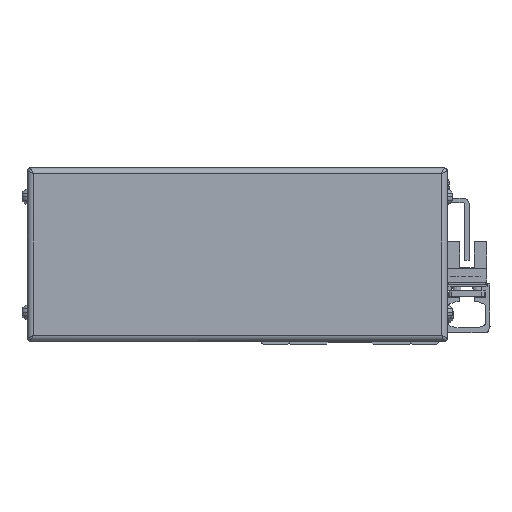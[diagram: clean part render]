
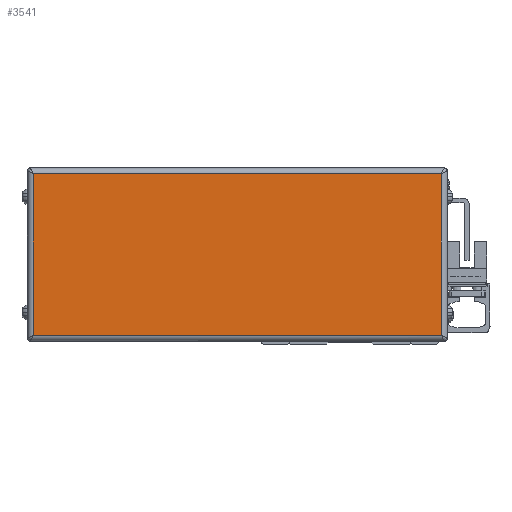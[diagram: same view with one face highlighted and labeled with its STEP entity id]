
A CAD part, left-side view. The second image highlights one B-rep face of the part: STEP entity #3541.
In plain terms, the highlighted planar face has unit normal (-1, 0, 0).
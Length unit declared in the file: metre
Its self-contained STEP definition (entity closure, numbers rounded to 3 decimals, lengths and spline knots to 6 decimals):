
#3541=ADVANCED_FACE('',(#8076),#8077,.T.);
#8076=FACE_OUTER_BOUND('',#14665,.T.);
#8077=PLANE('',#14666);
#14665=EDGE_LOOP('',(#25590,#25591,#25592,#25593));
#14666=AXIS2_PLACEMENT_3D('',#25594,#25595,#25596);
#25590=ORIENTED_EDGE('',*,*,#42152,.T.);
#25591=ORIENTED_EDGE('',*,*,#42153,.T.);
#25592=ORIENTED_EDGE('',*,*,#42154,.T.);
#25593=ORIENTED_EDGE('',*,*,#42155,.T.);
#25594=CARTESIAN_POINT('',(-0.054,0.039,-0.001));
#25595=DIRECTION('',(-1.0,0.0,0.0));
#25596=DIRECTION('',(0.0,0.,1.0));
#42152=EDGE_CURVE('',#49342,#49343,#49344,.T.);
#42153=EDGE_CURVE('',#49343,#48252,#49345,.T.);
#42154=EDGE_CURVE('',#48252,#49346,#49347,.T.);
#42155=EDGE_CURVE('',#49346,#49342,#49348,.T.);
#48252=VERTEX_POINT('',#58130);
#49342=VERTEX_POINT('',#59656);
#49343=VERTEX_POINT('',#59657);
#49344=LINE('',#59658,#59659);
#49345=LINE('',#59660,#59661);
#49346=VERTEX_POINT('',#59662);
#49347=LINE('',#59663,#59664);
#49348=LINE('',#59665,#59666);
#58130=CARTESIAN_POINT('',(-0.054,0.1097,-0.029));
#59656=CARTESIAN_POINT('',(-0.054,-0.0317,0.027));
#59657=CARTESIAN_POINT('',(-0.054,0.1097,0.027));
#59658=CARTESIAN_POINT('',(-0.054,0.039,0.027));
#59659=VECTOR('',#73209,1.0);
#59660=CARTESIAN_POINT('',(-0.054,0.1097,-0.001));
#59661=VECTOR('',#73210,1.0);
#59662=CARTESIAN_POINT('',(-0.054,-0.0317,-0.029));
#59663=CARTESIAN_POINT('',(-0.054,0.039,-0.029));
#59664=VECTOR('',#73211,1.0);
#59665=CARTESIAN_POINT('',(-0.054,-0.0317,-0.001));
#59666=VECTOR('',#73212,1.0);
#73209=DIRECTION('',(0.0,1.0,0.));
#73210=DIRECTION('',(0.0,0.,-1.0));
#73211=DIRECTION('',(0.0,-1.0,0.));
#73212=DIRECTION('',(0.0,0.,1.0));
